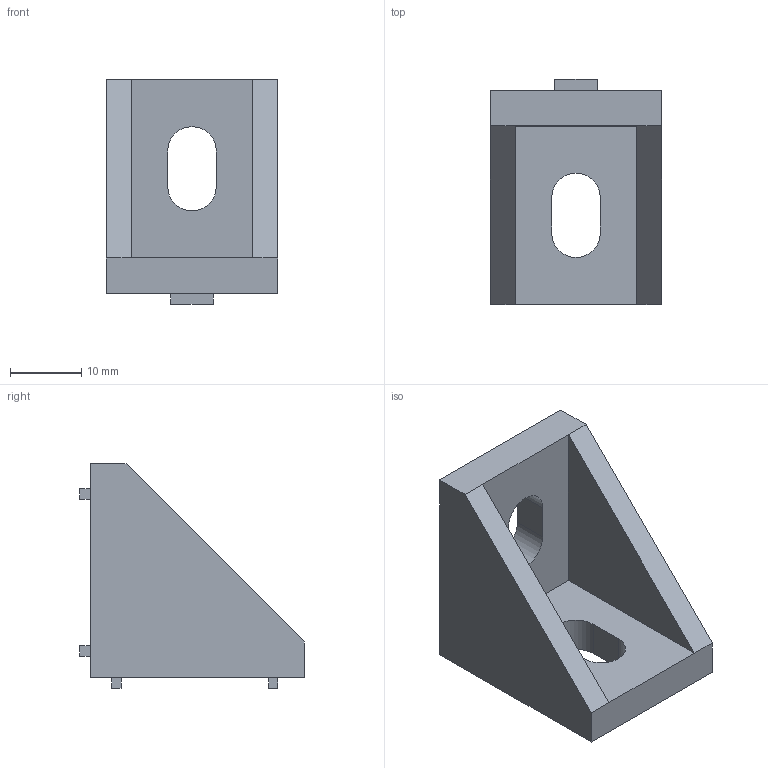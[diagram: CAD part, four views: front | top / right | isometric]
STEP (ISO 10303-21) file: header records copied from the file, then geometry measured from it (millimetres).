
FILE_DESCRIPTION(/* description */ ('Unknown'),/* implementation_level */ '2;1');
FILE_NAME(/* name */ 'DL2430',/* time_stamp */ '2026-09-17T15:14:46+08:00',/* author */ ('Unknown'),/* organization */ ('Unknown'),/* preprocessor_version */ 'ST-DEVELOPER v16.7',/* originating_system */ 'DEX',/* authorisation */ $);
FILE_SCHEMA (('AUTOMOTIVE_DESIGN {1 0 10303 214 3 1 1}'));
Length unit declared in the file: millimetre
Products named in the file (1): DL2430
Bounding box: 24 x 31.5 x 31.5 mm (x, y, z)
Volume: 8134.7 mm3; surface area: 4698.6 mm2
Topology: 1 solids, 1 shells, 40 faces, 98 edges, 64 vertices
Faces by surface type: plane 36, cylinder 4
Entity records: 1196 total; most frequent: CARTESIAN_POINT 203, ORIENTED_EDGE 196, DIRECTION 188, EDGE_CURVE 98, LINE 90, VECTOR 90, VERTEX_POINT 64, AXIS2_PLACEMENT_3D 49
